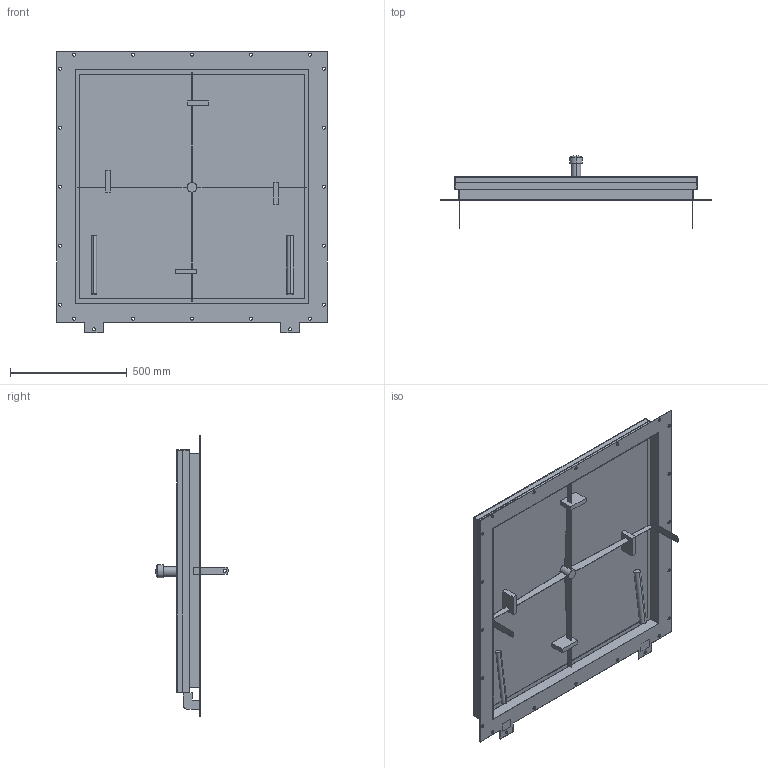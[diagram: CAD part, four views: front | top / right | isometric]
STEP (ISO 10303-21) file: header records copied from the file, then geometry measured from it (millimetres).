
FILE_DESCRIPTION((''),'2;1');
FILE_NAME('51802362','2024-10-17T10:57:16',('wep'),('HUBER SE'),'CREO PARAMETRIC BY PTC INC, 2022162','CREO PARAMETRIC BY PTC INC, 2022162','');
FILE_SCHEMA(('AUTOMOTIVE_DESIGN { 1 0 10303 214 1 1 1 1 }'));
Length unit declared in the file: millimetre
Products named in the file (1): 51802362
Bounding box: 1160 x 310 x 1205 mm (x, y, z)
Volume: 6737444.6 mm3; surface area: 6335463 mm2
Topology: 3 solids, 4 shells, 206 faces, 530 edges, 349 vertices
Faces by surface type: plane 140, cylinder 64, sphere 2
Entity records: 6875 total; most frequent: CARTESIAN_POINT 1085, DIRECTION 1070, ORIENTED_EDGE 1056, EDGE_CURVE 528, VECTOR 398, LINE 398, VERTEX_POINT 349, AXIS2_PLACEMENT_3D 336
